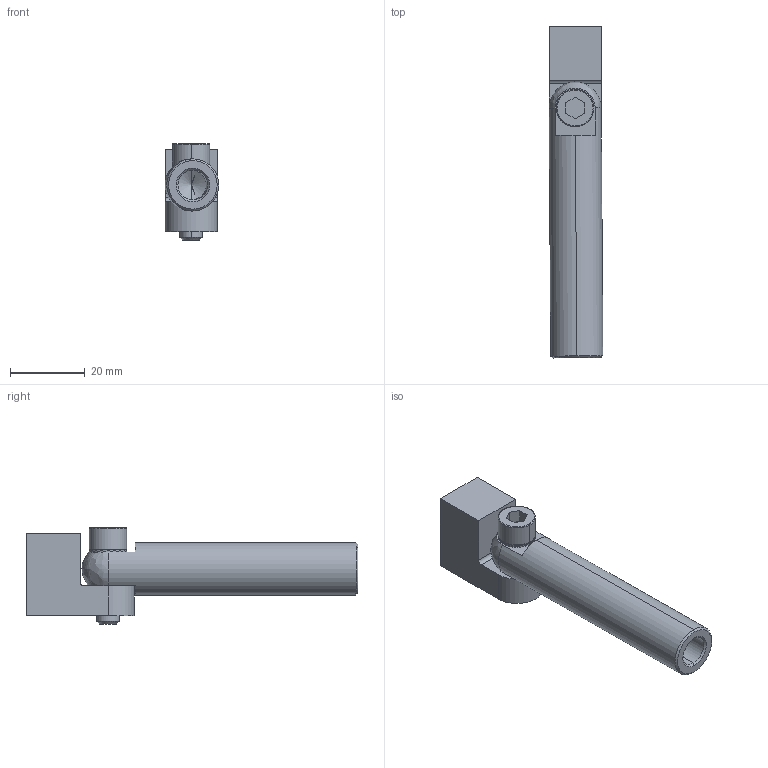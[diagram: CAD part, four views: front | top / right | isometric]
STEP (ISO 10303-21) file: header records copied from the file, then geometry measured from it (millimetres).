
FILE_DESCRIPTION (( 'STEP AP214' ), '1' );
FILE_NAME ('SEAV-G1814L60.STEP', '2019-11-11T05:11:42', ( '微软用户' ), ( '微软中国' ), 'SwSTEP 2.0', 'SolidWorks 2016', '' );
FILE_SCHEMA (( 'AUTOMOTIVE_DESIGN' ));
Length unit declared in the file: millimetre
Products named in the file (1): SEAV-G1814L60
Bounding box: 14.46 x 89.04 x 26 mm (x, y, z)
Volume: 12836.5 mm3; surface area: 8597.2 mm2
Topology: 4 solids, 4 shells, 208 faces, 587 edges, 382 vertices
Faces by surface type: plane 166, cylinder 23, cone 16, bspline 3
Entity records: 9217 total; most frequent: CARTESIAN_POINT 1335, DIRECTION 1191, ORIENTED_EDGE 1162, EDGE_CURVE 581, AXIS2_PLACEMENT_3D 412, VERTEX_POINT 382, LINE 367, VECTOR 367
